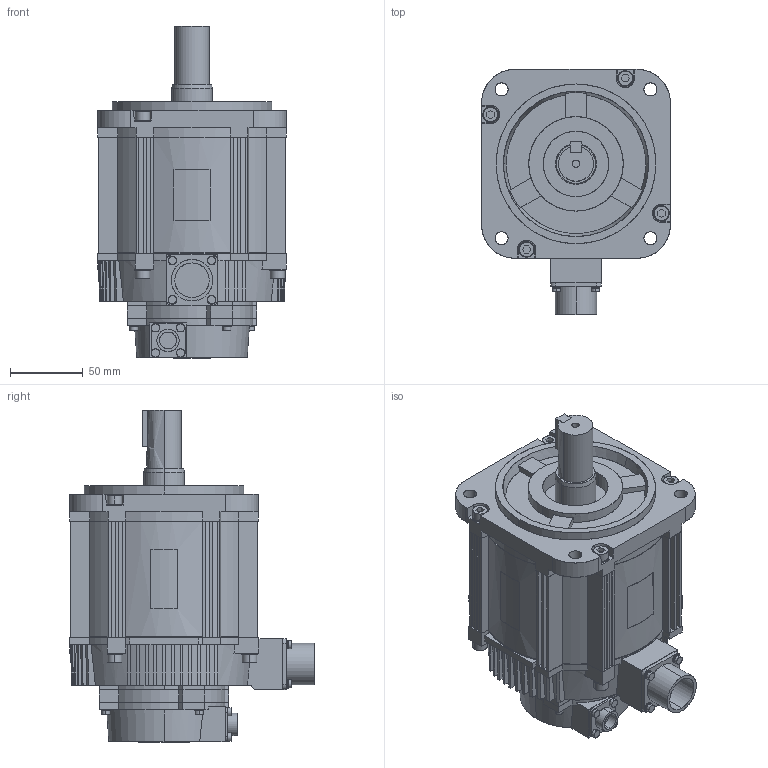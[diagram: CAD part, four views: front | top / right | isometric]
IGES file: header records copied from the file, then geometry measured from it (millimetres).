
Start section: SolidWorks IGES file using analytic representation for surfaces
Global section: file name: D:\YASKAWA\sgm7g_20__a61.IGS; native system: SolidWorks 2006 by SolidWorks Corporation; preprocessor: SolidWorks 2006 by SolidWorks Corporation; author: yamanouchi; date: 140507.140812; units: millimetre
Bounding box: 130 x 168.49 x 228.6 mm (x, y, z)
Surface area: 158414 mm2 (no closed solid volume)
Topology: 0 solids, 0 shells, 814 faces, 9218 edges, 9218 vertices
Faces by surface type: bspline 531, revolution 283
